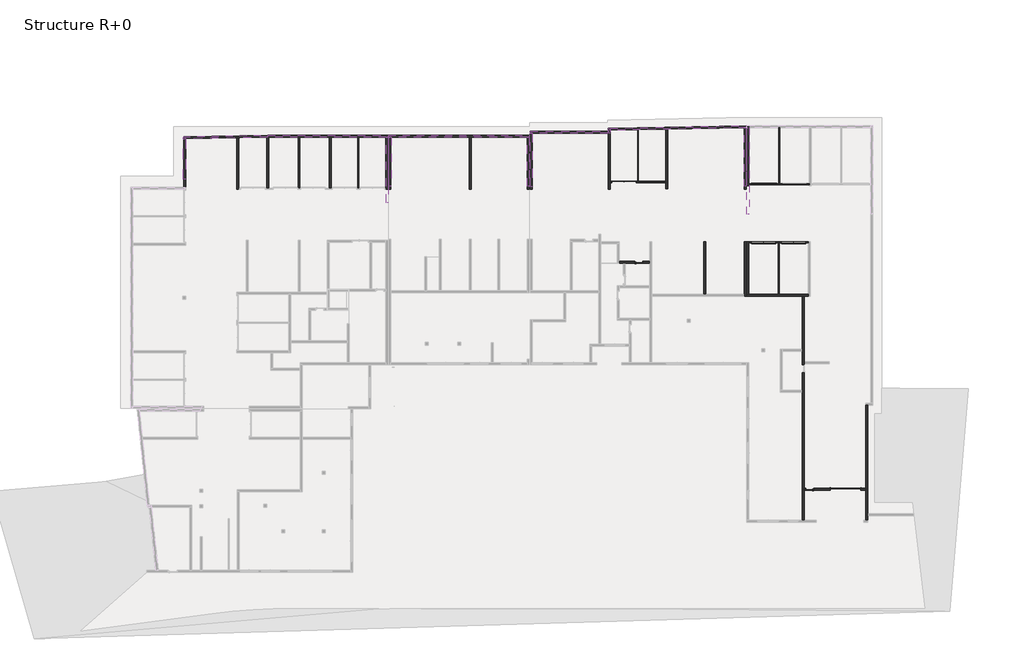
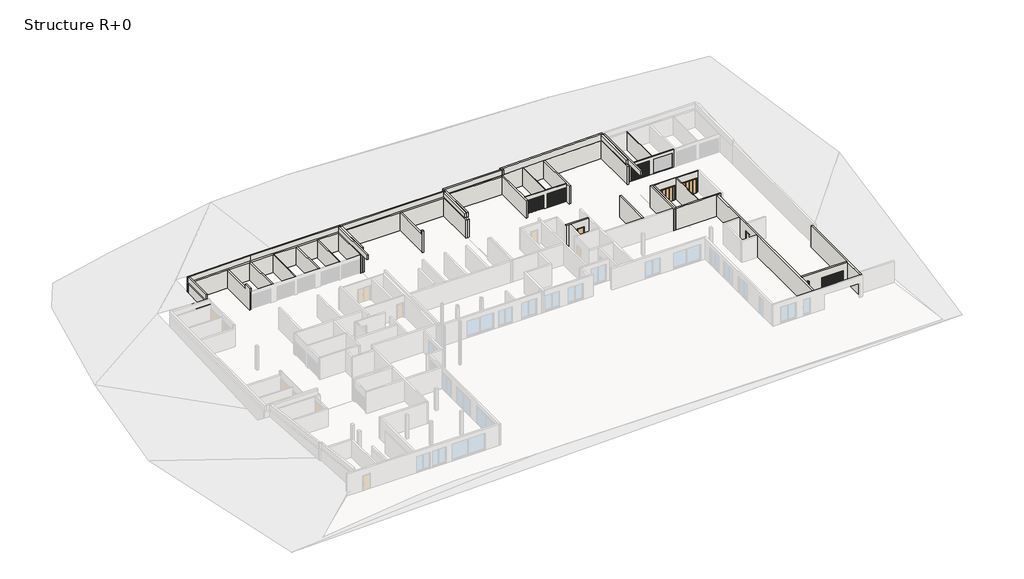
# One storey, part 4 of 5: 47 walls, 8 doors.
"""IFC4 building model written with IfcOpenShell, lengths in millimetres."""

from ifc_helpers import new_model, si_unit, frame, origin, origin_with_axes, place, context, project, spatial, polyline, outline, extrude, faceted_brep, transform, mapped, element, save
from components import door_2_4m_x_2m_ca442cef, door_3m_x_2m_7397f7c9, hb_simple_830_x_2040_mm_c83fbc24, int_simple_pp_0_83m_x_2_04m_462b1650

model = new_model("IFC4")

# Units and contexts
model_context = context("Model", 3, world=origin())
ifc_project = project(units=[si_unit("LENGTHUNIT", "METRE", prefix="MILLI")], contexts=[model_context])

# Site, building, storey
site = spatial("IfcSite", under=ifc_project)
building = spatial("IfcBuilding", under=site)
storey = spatial("IfcBuildingStorey", under=building, Name="Structure R+0", Elevation=0.0)

# Doors
placement = place(None, origin())
door_2_4m_x_2m_shape = door_2_4m_x_2m_ca442cef(model_context)
element("IfcDoor", 1, ObjectType="Garage basculante : 2.4m x 2m", at=placement, inside=storey, context=model_context, shape_type="MappedRepresentation", body=[
    mapped(door_2_4m_x_2m_shape, transform((47163.577574, 32179.2837054, -60.0), x_axis=(-1.0, 0.0, 0.0), y_axis=(0.0, -1.0, 0.0), z_axis=(0.0, 0.0, 1.0))),
])
element("IfcDoor", 2, ObjectType="Garage basculante : 2.4m x 2m", at=placement, inside=storey, context=model_context, shape_type="MappedRepresentation", body=[
    mapped(door_2_4m_x_2m_shape, transform((49956.9530308, 32179.2837054, 0.0), x_axis=(-1.0, 0.0, 0.0), y_axis=(0.0, -1.0, 0.0), z_axis=(0.0, 0.0, 1.0))),
])
element("IfcDoor", 3, ObjectType="Garage basculante : 2.4m x 2m", at=placement, inside=storey, context=model_context, shape_type="MappedRepresentation", body=[
    mapped(door_2_4m_x_2m_shape, transform((61027.3278041, 31982.2354102, 0.0), x_axis=(-1.0, 0.0, 0.0), y_axis=(0.0, -1.0, 0.0), z_axis=(0.0, 0.0, 1.0))),
])
element("IfcDoor", 4, ObjectType="Garage basculante : 2.4m x 2m", at=placement, inside=storey, context=model_context, shape_type="MappedRepresentation", body=[
    mapped(door_2_4m_x_2m_shape, transform((63996.3219312, 26916.1772446, 0.0), x_axis=(1.0, 0.0, 0.0), y_axis=(0.0, 1.0, 0.0), z_axis=(0.0, 0.0, 1.0))),
])
element("IfcDoor", 5, ObjectType="Garage basculante : 2.4m x 2m", at=placement, inside=storey, context=model_context, shape_type="MappedRepresentation", body=[
    mapped(door_2_4m_x_2m_shape, transform((61025.6076413, 26916.1772446, 0.0), x_axis=(1.0, 0.0, 0.0), y_axis=(0.0, 1.0, 0.0), z_axis=(0.0, 0.0, 1.0))),
])
door_3m_x_2m_shape = door_3m_x_2m_7397f7c9(model_context)
element("IfcDoor", 6, ObjectType="Garage basculante : 3m x 2m", at=placement, inside=storey, context=model_context, shape_type="MappedRepresentation", body=[
    mapped(door_3m_x_2m_shape, transform((69122.0236433, 1770.4780461, 0.0), x_axis=(-1.0, 0.0, 0.0), y_axis=(0.0, -1.0, 0.0), z_axis=(0.0, 0.0, 1.0))),
])
hb_simple_830_x_2040_mm_shape = hb_simple_830_x_2040_mm_c83fbc24(model_context)
element("IfcDoor", 7, ObjectType="HB-Simple : 830 x 2040 mm", at=placement, inside=storey, context=model_context, shape_type="MappedRepresentation", body=[
    mapped(hb_simple_830_x_2040_mm_shape, transform((65595.3933514, 2114.0303718, 0.0), x_axis=(-1.0, 0.0, 0.0), y_axis=(0.0, -1.0, 0.0), z_axis=(0.0, 0.0, 1.0))),
])
int_simple_pp_0_83m_x_2_04m_shape = int_simple_pp_0_83m_x_2_04m_462b1650(model_context)
element("IfcDoor", 8, ObjectType="Int. Simple : PP (0.83m x 2.04m)", at=placement, inside=storey, context=model_context, shape_type="MappedRepresentation", body=[
    mapped(int_simple_pp_0_83m_x_2_04m_shape, transform((48659.9149229, 24600.9913711, 0.0), x_axis=(1.0, 0.0, 0.0), y_axis=(0.0, 1.0, 0.0), z_axis=(0.0, 0.0, 1.0))),
])

# Walls
element("IfcWall", 9, ObjectType="Voile BA 20 + etancheite 1 + 0 enduit", at=placement, inside=storey, context=model_context, shape_type="Brep", body=[
    faceted_brep([(59082.2183923, 37936.6178833, 2710.0), (59082.2183923, 32111.2837659, 2710.0), (59082.2183923, 32111.2837659, 2720.0), (59082.2183923, 32111.2837659, 3320.0), (59082.2183923, 32111.2837659, 3330.0), (59082.2183923, 37936.6178833, 3330.0), (59292.2183923, 37941.0018036, 2710.0), (59292.2183923, 37941.0018036, 3330.0), (59292.2183923, 32111.2837659, 3330.0), (59292.2183923, 32111.2837659, 2710.0)], [[[0, 1, 2, 3, 4, 5]], [[6, 7, 8, 9]], [[1, 0, 6, 9]], [[4, 3, 2, 1, 9, 8]], [[5, 4, 8, 7]], [[0, 5, 7, 6]]]),
])
element("IfcWall", 10, ObjectType="Voile BA 20 + etancheite 1 + 0 enduit", at=placement, inside=storey, context=model_context, shape_type="Brep", body=[
    faceted_brep([(59352.998512, 37924.6162149, 2710.0), (59352.998512, 29381.5866004, 2710.0), (59352.998512, 29381.5866004, 3230.0), (59352.998512, 29381.5866004, 3330.0), (59352.998512, 37924.6162149, 3330.0), (59562.998512, 37924.6162149, 2710.0), (59562.998512, 37924.6162149, 3330.0), (59562.998512, 29381.5866004, 3330.0), (59562.998512, 29381.5866004, 3320.0), (59562.998512, 29381.5866004, 3030.0), (59562.998512, 29381.5866004, 2720.0), (59562.998512, 29381.5866004, 2710.0)], [[[0, 1, 2, 3, 4]], [[5, 6, 7, 8, 9, 10, 11]], [[1, 0, 5, 11]], [[4, 3, 7, 6]], [[0, 4, 6, 5]], [[3, 2, 1, 11, 10, 9, 8, 7]]]),
])
element("IfcWall", 11, ObjectType="Voile BA 20 + etancheite 1 + 2 enduit", at=placement, inside=storey, context=model_context, shape_type="Brep", body=[
    faceted_brep([(59288.2192671, 38150.9640726, 2510.0), (45808.577574, 37869.5656232, 2510.0), (45808.577574, 37869.5656232, 2710.0), (45808.577574, 37869.5656232, 3410.0), (59288.2192671, 38150.9640726, 3410.0), (59292.6022324, 37941.0098166, 2510.0), (59292.6022324, 37941.0098166, 3410.0), (45808.577574, 37659.5198692, 3410.0), (45808.577574, 37659.5198692, 2510.0)], [[[0, 1, 2, 3, 4]], [[5, 6, 7, 8]], [[1, 0, 5, 8]], [[4, 3, 7, 6]], [[0, 4, 6, 5]], [[3, 2, 1, 8, 7]]]),
])
element("IfcWall", 12, ObjectType="Voile BA 20 + etancheite 1 + 2 enduit", at=placement, inside=storey, context=model_context, shape_type="Brep", body=[
    faceted_brep([(45598.577574, 37390.5992191, 3410.0), (37868.7313075, 37390.5992191, 3410.0), (37868.7313075, 37390.5992191, 3330.0), (37868.7313075, 37390.5992191, 2710.0), (38078.7313075, 37390.5992191, 2710.0), (45598.577574, 37390.5992191, 2710.0), (45598.577574, 37600.5992191, 2510.0), (37868.7313075, 37600.5992191, 2510.0), (37868.7313075, 37600.5992191, 3410.0), (45598.577574, 37600.5992191, 3410.0), (45598.577574, 37580.5992191, 2510.0), (37868.7313075, 37580.5992191, 2510.0), (45598.577574, 37580.5992191, 2710.0), (37868.7313075, 37580.5992191, 2710.0)], [[[0, 1, 2, 3, 4, 5]], [[6, 7, 8, 9]], [[7, 6, 10, 11]], [[1, 0, 9, 8]], [[6, 9, 0, 5, 12, 10]], [[1, 8, 7, 11, 13, 3, 2]], [[13, 12, 5, 4, 3]], [[12, 13, 11, 10]]]),
])
element("IfcWall", 13, ObjectType="Voile BA 20 + etancheite 1 + 2 enduit", at=placement, inside=storey, context=model_context, shape_type="Brep", body=[
    faceted_brep([(45808.577574, 37370.5992191, 2710.0), (45808.577574, 37869.5656232, 2710.0), (45808.577574, 37869.5656232, 3410.0), (45808.577574, 37659.5198692, 3410.0), (45808.577574, 37370.5992191, 3410.0), (45598.577574, 37370.5992191, 2710.0), (45598.577574, 37370.5992191, 3410.0), (45598.577574, 37390.5992191, 3410.0), (45598.577574, 37600.5992191, 3410.0), (45598.577574, 37865.1817029, 3410.0), (45598.577574, 37865.1817029, 2710.0), (45598.577574, 37580.5992191, 2710.0), (45598.577574, 37390.5992191, 2710.0)], [[[0, 1, 2, 3, 4]], [[5, 6, 7, 8, 9, 10, 11, 12]], [[1, 0, 5, 12, 11, 10]], [[4, 3, 2, 9, 8, 7, 6]], [[0, 4, 6, 5]], [[2, 1, 10, 9]]]),
])
element("IfcWall", 14, ObjectType="Voile BA 20 + etancheite 1 + 0 enduit", at=placement, inside=storey, context=model_context, shape_type="Brep", body=[
    faceted_brep([(38078.7313075, 32087.4960094, 2710.0), (38078.7313075, 37390.5992191, 2710.0), (38078.7313075, 37390.5992191, 3330.0), (38078.7313075, 32087.4960094, 3330.0), (37868.7313075, 32087.4960094, 2710.0), (37868.7313075, 32087.4960094, 3230.0), (37868.7313075, 32087.4960094, 3330.0), (37868.7313075, 37390.5992191, 3330.0), (37868.7313075, 37390.5992191, 2710.0)], [[[0, 1, 2, 3]], [[4, 5, 6, 7, 8]], [[1, 0, 4, 8]], [[3, 2, 7, 6]], [[0, 3, 6, 5, 4]], [[2, 1, 8, 7]]]),
])
element("IfcWall", 15, ObjectType="Voile BA 20 + etancheite 1 + 0 enduit", at=placement, inside=storey, context=model_context, shape_type="Brep", body=[
    faceted_brep([(37808.3832806, 32107.4972516, 2710.0), (37808.3832806, 36992.4079561, 2710.0), (37808.3832806, 36992.4079561, 3330.0), (37808.3832806, 32107.4972516, 3330.0), (37598.3832806, 32107.4972516, 2710.0), (37598.3832806, 32107.4972516, 2720.0), (37598.3832806, 32107.4972516, 3030.0), (37598.3832806, 32107.4972516, 3330.0), (37598.3832806, 36992.4079561, 3330.0), (37598.3832806, 36992.4079561, 2710.0)], [[[0, 1, 2, 3]], [[4, 5, 6, 7, 8, 9]], [[1, 0, 4, 9]], [[3, 2, 8, 7]], [[0, 3, 7, 6, 5, 4]], [[2, 1, 9, 8]]]),
])
element("IfcWall", 16, ObjectType="Voile BA 20 + etancheite 1 + 2 enduit", at=placement, inside=storey, context=model_context, shape_type="Brep", body=[
    faceted_brep([(23891.9389593, 37202.4079561, 3410.0), (37799.4832806, 37202.4079561, 3410.0), (37799.4832806, 37202.4079561, 2710.0), (23891.9389593, 37202.4079561, 2710.0), (37799.4832806, 36992.4079561, 3410.0), (23891.9389593, 36992.4079561, 3410.0), (23891.9389593, 36992.4079561, 3330.0), (23891.9389593, 36992.4079561, 2710.0), (24101.9389593, 36992.4079561, 2710.0), (37598.3832806, 36992.4079561, 2710.0), (37799.4832806, 36992.4079561, 2710.0)], [[[0, 1, 2, 3]], [[4, 5, 6, 7, 8, 9, 10]], [[1, 0, 5, 4]], [[1, 4, 10, 2]], [[5, 0, 3, 7, 6]], [[3, 2, 10, 9, 8, 7]]]),
])
element("IfcWall", 17, ObjectType="Voile BA 20 + etancheite 1 + 0 enduit", at=placement, inside=storey, context=model_context, shape_type="SweptSolid", body=[
    extrude(outline(polyline([(24101.9389593, 36992.4079561), (24101.9389593, 32107.4974719), (23891.9389593, 32107.4974719), (23891.9389593, 36992.4079561), (24101.9389593, 36992.4079561)])), frame((0.0, 0.0, 2710.0), z_axis=(0.0, 0.0, 1.0), x_axis=(1.0, 0.0, 0.0)), (0.0, 0.0, 1.0), 620.0),
])
element("IfcWall", 18, ObjectType="Voile BA 20 + etancheite 1 + 0 enduit", at=placement, inside=storey, context=model_context, shape_type="Brep", body=[
    faceted_brep([(23819.3795366, 30510.6398567, 2710.0), (23819.3795366, 36992.4079561, 2710.0), (23819.3795366, 36992.4079561, 3330.0), (23819.3795366, 30510.6398567, 3330.0), (23609.3795366, 30510.6398567, 2710.0), (23609.3795366, 30510.6398567, 2720.0), (23609.3795366, 30510.6398567, 3320.0), (23609.3795366, 30510.6398567, 3330.0), (23609.3795366, 36992.4079561, 3330.0), (23609.3795366, 36992.4079561, 2710.0)], [[[0, 1, 2, 3]], [[4, 5, 6, 7, 8, 9]], [[1, 0, 4, 9]], [[3, 2, 8, 7]], [[0, 3, 7, 6, 5, 4]], [[2, 1, 9, 8]]]),
])
element("IfcWall", 19, ObjectType="Voile BA 20 + etancheite 1 + 2 enduit", at=placement, inside=storey, context=model_context, shape_type="Brep", body=[
    faceted_brep([(11903.2655763, 37202.4079561, 3410.0), (23819.4832806, 37202.4079561, 3410.0), (23819.4832806, 37202.4079561, 2510.0), (23803.2655761, 37202.4079561, 2510.0), (23803.2655761, 37202.4079561, 2710.0), (11903.2655763, 37202.4079561, 2710.0), (23819.4832806, 36992.4079561, 3410.0), (11905.3559168, 36992.4079561, 3410.0), (11905.3559168, 36992.4079561, 2710.0), (23609.3795366, 36992.4079561, 2710.0), (23803.2655761, 36992.4079561, 2710.0), (23803.2655761, 36992.4079561, 2510.0), (23819.4832806, 36992.4079561, 2510.0), (23819.4832806, 36992.4079561, 2710.0), (23819.4832806, 36992.4079561, 3330.0)], [[[0, 1, 2, 3, 4, 5]], [[6, 7, 8, 9, 10, 11, 12, 13, 14]], [[2, 12, 11, 3]], [[1, 0, 7, 6]], [[2, 1, 6, 14, 13, 12]], [[7, 0, 5, 8]], [[4, 10, 9, 8, 5]], [[10, 4, 3, 11]]]),
])
element("IfcWall", 20, ObjectType="Voile BA 20 + etancheite 1 + 2 enduit", at=placement, inside=storey, context=model_context, shape_type="Brep", body=[
    faceted_brep([(3536.9058449, 37035.8339205, 3410.0), (11903.2655763, 37202.4079561, 3410.0), (11903.2655763, 37202.4079561, 2710.0), (3556.9078335, 37036.2321596, 2710.0), (3556.9078335, 37036.2321596, 2510.0), (3536.9058449, 37035.8339205, 2510.0), (11905.3559168, 36992.4079561, 3410.0), (3746.9058449, 36829.9733972, 3410.0), (3536.9058449, 36825.7923019, 3410.0), (3536.9058449, 36825.7923019, 2710.0), (3536.9058449, 36825.7923019, 2510.0), (3556.9078335, 36826.190541, 2510.0), (3556.9078335, 36826.190541, 2710.0), (3746.9058449, 36829.9733972, 2710.0), (11905.3559168, 36992.4079561, 2710.0)], [[[0, 1, 2, 3, 4, 5]], [[6, 7, 8, 9, 10, 11, 12, 13, 14]], [[10, 5, 4, 11]], [[1, 0, 8, 7, 6]], [[0, 5, 10, 9, 8]], [[1, 6, 14, 2]], [[12, 3, 2, 14, 13]], [[3, 12, 11, 4]]]),
])
element("IfcWall", 21, ObjectType="Voile BA 20 + etancheite 1 + 2 enduit", at=placement, inside=storey, context=model_context, shape_type="Brep", body=[
    faceted_brep([(3746.9058449, 32810.6398567, 2710.0), (3746.9058449, 36829.9733972, 2710.0), (3746.9058449, 36829.9733972, 3410.0), (3746.9058449, 32810.6398567, 3410.0), (3746.9058449, 32810.6398567, 3320.0), (3746.9058449, 32810.6398567, 2720.0), (3536.9058449, 32810.6398567, 2710.0), (3536.9058449, 32810.6398567, 2720.0), (3536.9058449, 32810.6398567, 3320.0), (3536.9058449, 32810.6398567, 3410.0), (3536.9058449, 36825.7923019, 3410.0), (3536.9058449, 36825.7923019, 2710.0)], [[[0, 1, 2, 3, 4, 5]], [[6, 7, 8, 9, 10, 11]], [[1, 0, 6, 11]], [[3, 2, 10, 9]], [[0, 5, 4, 3, 9, 8, 7, 6]], [[2, 1, 11, 10]]]),
])
element("IfcWall", 22, ObjectType="Ext. Voile BA 20", at=placement, inside=storey, context=model_context, shape_type="Brep", body=[
    faceted_brep([(3556.9078335, 36836.1925228, 0.0), (3756.9078335, 36840.1745184, 0.0), (8817.5131269, 36940.9310569, 0.0), (9017.5131269, 36944.9130524, 0.0), (11803.2321127, 37000.3766553, 0.0), (11905.2563766, 37002.4079561, 0.0), (11905.2563766, 37002.4079561, 2510.0), (11803.2321127, 37000.3766553, 2510.0), (9017.5131269, 36944.9130524, 2510.0), (8817.5131269, 36940.9310569, 2510.0), (3756.9078335, 36840.1745184, 2510.0), (3556.9078335, 36836.1925228, 2510.0), (3556.9078335, 37036.2321596, 0.0), (3556.9078335, 37036.2321596, 2510.0), (11903.2655761, 37202.4079561, 2510.0), (11903.2655761, 37202.4079561, 0.0)], [[[0, 1, 2, 3, 4, 5, 6, 7, 8, 9, 10, 11]], [[12, 13, 14, 15]], [[5, 4, 3, 2, 1, 0, 12, 15]], [[11, 10, 9, 8, 7, 6, 14, 13]], [[6, 5, 15, 14]], [[0, 11, 13, 12]]]),
])
element("IfcWall", 23, ObjectType="Ext. Voile BA 20", at=placement, inside=storey, context=model_context, shape_type="Brep", body=[
    faceted_brep([(11905.2563766, 37002.4079561, 0.0), (12003.2321127, 37002.4079561, 0.0), (14936.19903, 37002.4079561, 0.0), (15036.19903, 37002.4079561, 0.0), (17999.2548774, 37002.4079561, 0.0), (18199.2548774, 37002.4079561, 0.0), (20819.3041456, 37002.4079561, 0.0), (20919.3041456, 37002.4079561, 0.0), (23603.2655761, 37002.4079561, 0.0), (23803.2655761, 37002.4079561, 0.0), (23803.2655761, 37002.4079561, 2510.0), (23603.2655761, 37002.4079561, 2510.0), (20919.3041456, 37002.4079561, 2510.0), (20819.3041456, 37002.4079561, 2510.0), (18199.2548774, 37002.4079561, 2510.0), (17999.2548774, 37002.4079561, 2510.0), (15036.19903, 37002.4079561, 2510.0), (14936.19903, 37002.4079561, 2510.0), (12003.2321127, 37002.4079561, 2510.0), (11905.2563766, 37002.4079561, 2510.0), (11903.2655761, 37202.4079561, 0.0), (11903.2655761, 37202.4079561, 2510.0), (23803.2655761, 37202.4079561, 2510.0), (23803.2655761, 37202.4079561, 0.0)], [[[0, 1, 2, 3, 4, 5, 6, 7, 8, 9, 10, 11, 12, 13, 14, 15, 16, 17, 18, 19]], [[20, 21, 22, 23]], [[9, 8, 7, 6, 5, 4, 3, 2, 1, 0, 20, 23]], [[19, 18, 17, 16, 15, 14, 13, 12, 11, 10, 22, 21]], [[0, 19, 21, 20]], [[10, 9, 23, 22]]]),
])
element("IfcWall", 24, ObjectType="Ext. Voile BA 20", at=placement, inside=storey, context=model_context, shape_type="Brep", body=[
    faceted_brep([(23603.2655761, 37002.4079561, 0.0), (23603.2655761, 31942.4079561, 0.0), (23603.2655761, 31842.4079561, 0.0), (23603.2655761, 31842.4079561, 2510.0), (23603.2655761, 31942.4079561, 2510.0), (23603.2655761, 37002.4079561, 2510.0), (23803.2655761, 37002.4079561, 0.0), (23803.2655761, 37002.4079561, 2510.0), (23803.2655761, 31842.4079561, 2510.0), (23803.2655761, 31842.4079561, 0.0)], [[[0, 1, 2, 3, 4, 5]], [[6, 7, 8, 9]], [[0, 5, 7, 6]], [[3, 2, 9, 8]], [[2, 1, 0, 6, 9]], [[5, 4, 3, 8, 7]]]),
])
element("IfcWall", 25, ObjectType="Ext. Voile BA 20", at=placement, inside=storey, context=model_context, shape_type="Brep", body=[
    faceted_brep([(24079.4832806, 37002.4079561, 0.0), (31828.7587922, 37002.4079561, 0.0), (32028.7587922, 37002.4079561, 0.0), (37808.398272, 37002.4079561, 0.0), (37808.398272, 37002.4079561, 2510.0), (32028.7587922, 37002.4079561, 2510.0), (31828.7587922, 37002.4079561, 2510.0), (24079.4832806, 37002.4079561, 2510.0), (24079.4832806, 37202.4079561, 0.0), (24079.4832806, 37202.4079561, 2510.0), (37808.398272, 37202.4079561, 2510.0), (37808.398272, 37202.4079561, 0.0)], [[[0, 1, 2, 3, 4, 5, 6, 7]], [[8, 9, 10, 11]], [[0, 7, 9, 8]], [[4, 3, 11, 10]], [[3, 2, 1, 0, 8, 11]], [[7, 6, 5, 4, 10, 9]]]),
])
element("IfcWall", 26, ObjectType="Ext. Voile BA 20", at=placement, inside=storey, context=model_context, shape_type="SweptSolid", body=[
    extrude(outline(polyline([(45618.577574, 37390.5992191), (38068.7313075, 37390.5992191), (38068.7313075, 37590.5992191), (45618.577574, 37590.5992191), (45618.577574, 37390.5992191)])), origin_with_axes(), (0.0, 0.0, 1.0), 2510.0),
])
element("IfcWall", 27, ObjectType="Ext. Voile BA 20", at=placement, inside=storey, context=model_context, shape_type="Brep", body=[
    faceted_brep([(45818.577574, 37659.9648356, 0.0), (48540.8278786, 37716.7940179, 0.0), (48610.8278786, 37718.2553247, 0.0), (51333.0781831, 37775.0845069, 0.0), (51533.0781831, 37779.2596691, 0.0), (59092.2183923, 37937.0628498, 0.0), (59292.2183923, 37941.2380119, 0.0), (59292.2183923, 37941.2380119, 2510.0), (59092.2183923, 37937.0628498, 2510.0), (51533.0781831, 37779.2596691, 2510.0), (51333.0781831, 37775.0845069, 2510.0), (48610.8278786, 37718.2553247, 2510.0), (48540.8278786, 37716.7940179, 2510.0), (45818.577574, 37659.9648356, 2510.0), (45818.577574, 37860.0084108, 0.0), (45818.577574, 37860.0084108, 2510.0), (59292.2183923, 38141.2815871, 2510.0), (59292.2183923, 38141.2815871, 0.0)], [[[0, 1, 2, 3, 4, 5, 6, 7, 8, 9, 10, 11, 12, 13]], [[14, 15, 16, 17]], [[6, 5, 4, 3, 2, 1, 0, 14, 17]], [[13, 12, 11, 10, 9, 8, 7, 16, 15]], [[0, 13, 15, 14]], [[7, 6, 17, 16]]]),
])
element("IfcWall", 28, ObjectType="Ext. Voile BA 20", at=placement, inside=storey, context=model_context, shape_type="Brep", body=[
    faceted_brep([(71127.0236897, 10414.6162149, 0.0), (71127.0236897, 2214.0303718, 0.0), (71127.0236897, 2014.0303718, 0.0), (71127.0236897, -947.3118451, 0.0), (71127.0236897, -947.3118451, 3030.0), (71127.0236897, 2014.0303718, 3030.0), (71127.0236897, 2214.0303718, 3030.0), (71127.0236897, 10414.6162149, 3030.0), (71327.0236897, 10414.6162149, 0.0), (71327.0236897, 10414.6162149, 3030.0), (71327.0236897, -308.991972, 3030.0), (71327.0236897, -508.991972, 3030.0), (71327.0236897, -947.3118451, 3030.0), (71327.0236897, -947.3118451, 0.0), (71327.0236897, -508.991972, 0.0), (71327.0236897, -308.991972, 0.0)], [[[0, 1, 2, 3, 4, 5, 6, 7]], [[8, 9, 10, 11, 12, 13, 14, 15]], [[3, 2, 1, 0, 8, 15, 14, 13]], [[7, 6, 5, 4, 12, 11, 10, 9]], [[0, 7, 9, 8]], [[4, 3, 13, 12]]]),
])
element("IfcWall", 29, ObjectType="Ext. Voile BA 20", at=placement, inside=storey, context=model_context, shape_type="Brep", body=[
    faceted_brep([(71127.0236897, 2014.0303718, 3030.0), (65012.3933514, 2014.0303718, 3030.0), (65012.3933514, 2014.0303718, 0.0), (65178.8933514, 2014.0303718, 0.0), (65178.8933514, 2014.0303718, 2041.5), (66011.8933514, 2014.0303718, 2041.5), (66011.8933514, 2014.0303718, 0.0), (67622.0236433, 2014.0303718, 0.0), (67622.0236433, 2014.0303718, 2015.0), (70652.0236433, 2014.0303718, 2015.0), (70652.0236433, 2014.0303718, 0.0), (71127.0236897, 2014.0303718, 0.0), (65012.3933514, 2214.0303718, 3030.0), (71127.0236897, 2214.0303718, 3030.0), (71127.0236897, 2214.0303718, 0.0), (70652.0236433, 2214.0303718, 0.0), (70652.0236433, 2214.0303718, 2015.0), (67622.0236433, 2214.0303718, 2015.0), (67622.0236433, 2214.0303718, 0.0), (65992.3933514, 2214.0303718, 0.0), (65992.3933514, 2214.0303718, 2022.0), (65198.3933514, 2214.0303718, 2022.0), (65198.3933514, 2214.0303718, 0.0), (65012.3933514, 2214.0303718, 0.0), (65198.3933514, 2194.0303718, 0.0), (65135.8933514, 2194.0303718, 0.0), (65149.8933514, 2180.0303718, 0.0), (65161.8933514, 2192.0303718, 0.0), (65178.8933514, 2192.0303718, 0.0), (65178.8933514, 2157.0303718, 0.0), (65196.8933514, 2157.0303718, 0.0), (65196.8933514, 2036.0303718, 0.0), (65178.8933514, 2036.0303718, 0.0), (66011.8933514, 2036.0303718, 0.0), (65993.8933514, 2036.0303718, 0.0), (65993.8933514, 2157.0303718, 0.0), (66011.8933514, 2157.0303718, 0.0), (66011.8933514, 2192.0303718, 0.0), (66028.8933514, 2192.0303718, 0.0), (66040.8933514, 2180.0303718, 0.0), (66054.8933514, 2194.0303718, 0.0), (65992.3933514, 2194.0303718, 0.0), (65992.3933514, 2194.0303718, 2022.0), (65198.3933514, 2194.0303718, 2022.0), (65135.8933514, 2194.0303718, 2084.5), (65149.8933514, 2180.0303718, 2070.5), (65161.8933514, 2192.0303718, 2058.5), (66028.8933514, 2192.0303718, 2058.5), (66011.8933514, 2192.0303718, 2041.5), (65178.8933514, 2192.0303718, 2041.5), (65178.8933514, 2157.0303718, 2041.5), (66011.8933514, 2157.0303718, 2041.5), (65993.8933514, 2157.0303718, 2023.5), (65196.8933514, 2157.0303718, 2023.5), (65196.8933514, 2036.0303718, 2023.5), (65993.8933514, 2036.0303718, 2023.5), (66011.8933514, 2036.0303718, 2041.5), (65178.8933514, 2036.0303718, 2041.5), (66054.8933514, 2194.0303718, 2084.5), (66040.8933514, 2180.0303718, 2070.5)], [[[0, 1, 2, 3, 4, 5, 6, 7, 8, 9, 10, 11]], [[12, 13, 14, 15, 16, 17, 18, 19, 20, 21, 22, 23]], [[2, 23, 22, 24, 25, 26, 27, 28, 29, 30, 31, 32, 3]], [[14, 11, 10, 15]], [[18, 7, 6, 33, 34, 35, 36, 37, 38, 39, 40, 41, 19]], [[1, 0, 13, 12]], [[0, 11, 14, 13]], [[2, 1, 12, 23]], [[41, 42, 20, 19]], [[42, 43, 21, 20]], [[43, 24, 22, 21]], [[25, 44, 45, 26]], [[26, 45, 46, 27]], [[27, 46, 47, 38, 37, 48, 49, 28]], [[28, 49, 50, 29]], [[29, 50, 51, 36, 35, 52, 53, 30]], [[30, 53, 54, 31]], [[31, 54, 55, 34, 33, 56, 57, 32]], [[32, 57, 4, 3]], [[42, 41, 40, 58, 44, 25, 24, 43]], [[45, 44, 58, 59]], [[46, 45, 59, 47]], [[49, 48, 51, 50]], [[53, 52, 55, 54]], [[57, 56, 5, 4]], [[58, 40, 39, 59]], [[38, 47, 59, 39]], [[48, 37, 36, 51]], [[52, 35, 34, 55]], [[56, 33, 6, 5]], [[8, 17, 16, 9]], [[9, 16, 15, 10]], [[17, 8, 7, 18]]]),
])
element("IfcWall", 30, ObjectType="Int. Brique 70 mm", at=placement, inside=storey, context=model_context, shape_type="SweptSolid", body=[
    extrude(outline(polyline([(62531.6570963, 32375.787736), (62531.6570963, 37944.6162149), (62601.6570963, 37944.6162149), (62601.6570963, 32375.787736), (62531.6570963, 32375.787736)])), origin_with_axes(), (0.0, 0.0, 1.0), 2570.0),
])
element("IfcWall", 31, ObjectType="Int. Brique 70 mm", at=placement, inside=storey, context=model_context, shape_type="SweptSolid", body=[
    extrude(outline(polyline([(48610.8278786, 37718.2553247), (48610.8278786, 32572.8360311), (48540.8278786, 32572.8360311), (48540.8278786, 37716.7940179), (48610.8278786, 37718.2553247)])), origin_with_axes(), (0.0, 0.0, 1.0), 2510.0),
])
element("IfcWall", 32, ObjectType="Int. Brique 70 mm", at=placement, inside=storey, context=model_context, shape_type="Brep", body=[
    faceted_brep([(62468.8219312, 26522.6249188, 0.0), (62468.8219312, 21416.6652274, 0.0), (62468.8219312, 21416.6652274, 3030.0), (62468.8219312, 23762.4942338, 3030.0), (62468.8219312, 24062.4942338, 3030.0), (62468.8219312, 26522.6249188, 3030.0), (62538.8219312, 26522.6249188, 0.0), (62538.8219312, 26522.6249188, 3030.0), (62538.8219312, 24062.4942338, 3030.0), (62538.8219312, 23762.4942338, 3030.0), (62538.8219312, 21416.6652274, 3030.0), (62538.8219312, 21416.6652274, 0.0)], [[[0, 1, 2, 3, 4, 5]], [[6, 7, 8, 9, 10, 11]], [[1, 0, 6, 11]], [[5, 4, 3, 2, 10, 9, 8, 7]], [[2, 1, 11, 10]], [[0, 5, 7, 6]]]),
])
element("IfcWall", 33, ObjectType="Int. Parpaing 100 mm", at=placement, inside=storey, context=model_context, shape_type="SweptSolid", body=[
    extrude(outline(polyline([(20819.3041456, 31942.4079561), (20819.3041456, 37002.4079561), (20919.3041456, 37002.4079561), (20919.3041456, 31942.4079561), (20819.3041456, 31942.4079561)])), origin_with_axes(), (0.0, 0.0, 1.0), 2510.0),
])
element("IfcWall", 34, ObjectType="Int. Parpaing 100 mm", at=placement, inside=storey, context=model_context, shape_type="SweptSolid", body=[
    extrude(outline(polyline([(14936.19903, 31942.4079561), (14936.19903, 37002.4079561), (15036.19903, 37002.4079561), (15036.19903, 31942.4079561), (14936.19903, 31942.4079561)])), origin_with_axes(), (0.0, 0.0, 1.0), 2510.0),
])
element("IfcWall", 35, ObjectType="Int. Parpaing 100 mm", at=placement, inside=storey, context=model_context, shape_type="Brep", body=[
    faceted_brep([(51333.0781831, 32472.8360311, 2510.0), (45818.577574, 32472.8360311, 2510.0), (45818.577574, 32472.8360311, -60.0), (45963.577574, 32472.8360311, -60.0), (45963.577574, 32472.8360311, 1955.0), (48393.577574, 32472.8360311, 1955.0), (48393.577574, 32472.8360311, -60.0), (51333.0781831, 32472.8360311, -60.0), (48756.9530308, 32472.8360311, 2015.0), (51186.9530308, 32472.8360311, 2015.0), (51186.9530308, 32472.8360311, 0.0), (48756.9530308, 32472.8360311, 0.0), (45818.577574, 32572.8360311, 2510.0), (48540.8278786, 32572.8360311, 2510.0), (48610.8278786, 32572.8360311, 2510.0), (51333.0781831, 32572.8360311, 2510.0), (51333.0781831, 32572.8360311, -60.0), (48393.577574, 32572.8360311, -60.0), (48393.577574, 32572.8360311, 1955.0), (45963.577574, 32572.8360311, 1955.0), (45963.577574, 32572.8360311, -60.0), (45818.577574, 32572.8360311, -60.0), (51186.9530308, 32572.8360311, 2015.0), (48756.9530308, 32572.8360311, 2015.0), (48756.9530308, 32572.8360311, 0.0), (51186.9530308, 32572.8360311, 0.0)], [[[0, 1, 2, 3, 4, 5, 6, 7], [8, 9, 10, 11]], [[12, 13, 14, 15, 16, 17, 18, 19, 20, 21], [22, 23, 24, 25]], [[16, 7, 6, 17]], [[2, 21, 20, 3]], [[1, 0, 15, 14, 13, 12]], [[0, 7, 16, 15]], [[2, 1, 12, 21]], [[4, 19, 18, 5]], [[5, 18, 17, 6]], [[19, 4, 3, 20]], [[8, 23, 22, 9]], [[10, 25, 24, 11]], [[9, 22, 25, 10]], [[23, 8, 11, 24]]]),
])
element("IfcWall", 36, ObjectType="Int. Parpaing 100 mm", at=placement, inside=storey, context=model_context, shape_type="SweptSolid", body=[
    extrude(outline(polyline([(-60.0, 59552.998512), (-60.0, 65633.9384076), (0.0, 65633.9384076), (0.0, 65533.9384076), (2510.0, 65533.9384076), (2510.0, 59552.998512), (-60.0, 59552.998512)]), holes=[polyline([(2015.0, 59827.3278041), (2015.0, 62257.3278041), (0.0, 62257.3278041), (0.0, 59827.3278041), (2015.0, 59827.3278041)]), polyline([(2015.0, 62852.7977519), (2015.0, 65282.7977519), (0.0, 65282.7977519), (0.0, 62852.7977519), (2015.0, 62852.7977519)])]), frame((0.0, 32275.787736, 0.0), z_axis=(0.0, 1.0, 0.0), x_axis=(0.0, 0.0, 1.0)), (0.0, 0.0, 1.0), 100.0),
])
element("IfcWall", 37, ObjectType="Int. Parpaing 100 mm", at=placement, inside=storey, context=model_context, shape_type="Brep", body=[
    faceted_brep([(59552.3933514, 26522.6249188, -60.0), (65413.8694348, 26522.6249188, -60.0), (65413.8694348, 26522.6249188, 3030.0), (62538.8219312, 26522.6249188, 3030.0), (62468.8219312, 26522.6249188, 3030.0), (59552.3933514, 26522.6249188, 3030.0), (62766.3219312, 26522.6249188, 2015.0), (65196.3219312, 26522.6249188, 2015.0), (65196.3219312, 26522.6249188, 0.0), (62766.3219312, 26522.6249188, 0.0), (59795.6076413, 26522.6249188, 2015.0), (62225.6076413, 26522.6249188, 2015.0), (62225.6076413, 26522.6249188, 0.0), (59795.6076413, 26522.6249188, 0.0), (65413.8694348, 26622.6249188, -60.0), (59552.3933514, 26622.6249188, -60.0), (59552.3933514, 26622.6249188, 0.0), (59552.3933514, 26622.6249188, 3030.0), (65413.8694348, 26622.6249188, 3030.0), (65413.8694348, 26622.6249188, 0.0), (65196.3219312, 26622.6249188, 2015.0), (62766.3219312, 26622.6249188, 2015.0), (62766.3219312, 26622.6249188, 0.0), (65196.3219312, 26622.6249188, 0.0), (62225.6076413, 26622.6249188, 2015.0), (59795.6076413, 26622.6249188, 2015.0), (59795.6076413, 26622.6249188, 0.0), (62225.6076413, 26622.6249188, 0.0)], [[[0, 1, 2, 3, 4, 5], [6, 7, 8, 9], [10, 11, 12, 13]], [[14, 15, 16, 17, 18, 19], [20, 21, 22, 23], [24, 25, 26, 27]], [[1, 0, 15, 14]], [[5, 4, 3, 2, 18, 17]], [[0, 5, 17, 16, 15]], [[2, 1, 14, 19, 18]], [[20, 7, 6, 21]], [[22, 9, 8, 23]], [[21, 6, 9, 22]], [[7, 20, 23, 8]], [[24, 11, 10, 25]], [[26, 13, 12, 27]], [[25, 10, 13, 26]], [[11, 24, 27, 12]]]),
])
element("IfcWall", 38, ObjectType="Voile BA 20", at=placement, inside=storey, context=model_context, shape_type="SweptSolid", body=[
    extrude(outline(polyline([(3756.9078335, 36840.1745184), (3756.9078335, 32028.092309), (3556.9078335, 32028.092309), (3556.9078335, 36836.1925228), (3756.9078335, 36840.1745184)])), origin_with_axes(), (0.0, 0.0, 1.0), 2510.0),
])
element("IfcWall", 39, ObjectType="Voile BA 20", at=placement, inside=storey, context=model_context, shape_type="Brep", body=[
    faceted_brep([(8817.5131269, 36940.9310569, 0.0), (8817.5131269, 31842.4079561, 0.0), (8817.5131269, 31842.4079561, 3030.0), (8817.5131269, 32810.6398567, 3030.0), (8817.5131269, 32810.6398567, 2510.0), (8817.5131269, 36940.9310569, 2510.0), (9017.5131269, 36944.9130524, 0.0), (9017.5131269, 36944.9130524, 2510.0), (9017.5131269, 32810.6398567, 2510.0), (9017.5131269, 32810.6398567, 3030.0), (9017.5131269, 31842.4079561, 3030.0), (9017.5131269, 31842.4079561, 2510.0), (9017.5131269, 31842.4079561, 0.0), (9017.5131269, 31942.4079561, 0.0)], [[[0, 1, 2, 3, 4, 5]], [[6, 7, 8, 9, 10, 11, 12, 13]], [[1, 0, 6, 13, 12]], [[2, 1, 12, 11, 10]], [[3, 2, 10, 9]], [[3, 9, 8, 4]], [[0, 5, 7, 6]], [[7, 5, 4, 8]]]),
])
element("IfcWall", 40, ObjectType="Voile BA 20", at=placement, inside=storey, context=model_context, shape_type="SweptSolid", body=[
    extrude(outline(polyline([(11803.2321127, 31942.4079561), (11803.2321127, 37000.3766553), (11905.2563766, 37002.4079561), (12003.2321127, 37002.4079561), (12003.2321127, 31942.4079561), (11803.2321127, 31942.4079561)])), origin_with_axes(), (0.0, 0.0, 1.0), 2510.0),
])
element("IfcWall", 41, ObjectType="Voile BA 20", at=placement, inside=storey, context=model_context, shape_type="SweptSolid", body=[
    extrude(outline(polyline([(17999.2548774, 31942.4079561), (17999.2548774, 37002.4079561), (18199.2548774, 37002.4079561), (18199.2548774, 31942.4079561), (17999.2548774, 31942.4079561)])), origin_with_axes(), (0.0, 0.0, 1.0), 2510.0),
])
element("IfcWall", 42, ObjectType="Voile BA 20", at=placement, inside=storey, context=model_context, shape_type="Brep", body=[
    faceted_brep([(24079.4832806, 31844.9130524, 0.0), (24079.4832806, 37002.4079561, 0.0), (24079.4832806, 37202.4079561, 0.0), (24079.4832806, 37202.4079561, 2510.0), (24079.4832806, 37002.4079561, 2510.0), (24079.4832806, 31844.9130524, 2510.0), (23879.4832806, 31844.9130524, 0.0), (23879.4832806, 31844.9130524, 2510.0), (23879.4832806, 37202.4079561, 2510.0), (23879.4832806, 37202.4079561, 0.0)], [[[0, 1, 2, 3, 4, 5]], [[6, 7, 8, 9]], [[3, 2, 9, 8]], [[2, 1, 0, 6, 9]], [[5, 4, 3, 8, 7]], [[0, 5, 7, 6]]]),
])
element("IfcWall", 43, ObjectType="Voile BA 20", at=placement, inside=storey, context=model_context, shape_type="SweptSolid", body=[
    extrude(outline(polyline([(37608.398272, 31857.8938935), (37608.398272, 37002.4079561), (37808.398272, 37002.4079561), (37808.398272, 31857.8938935), (37608.398272, 31857.8938935)])), origin_with_axes(), (0.0, 0.0, 1.0), 2510.0),
])
element("IfcWall", 44, ObjectType="Voile BA 20", at=placement, inside=storey, context=model_context, shape_type="Brep", body=[
    faceted_brep([(31828.7587922, 37002.4079561, 0.0), (31828.7587922, 31857.8938935, 0.0), (31828.7587922, 31857.8938935, 3030.0), (31828.7587922, 32107.4960317, 3030.0), (31828.7587922, 32107.4974719, 2510.0), (31828.7587922, 37002.4079561, 2510.0), (32028.7587922, 37002.4079561, 0.0), (32028.7587922, 37002.4079561, 2510.0), (32028.7587922, 32107.4974719, 2510.0), (32028.7587922, 32107.4974719, 3030.0), (32028.7587922, 31857.8938935, 3030.0), (32028.7587922, 31857.8938935, 0.0)], [[[0, 1, 2, 3, 4, 5]], [[6, 7, 8, 9, 10, 11]], [[1, 0, 6, 11]], [[2, 1, 11, 10]], [[3, 2, 10, 9]], [[3, 9, 8, 4]], [[0, 5, 7, 6]], [[7, 5, 4, 8]]]),
])
element("IfcWall", 45, ObjectType="Voile BA 20", at=placement, inside=storey, context=model_context, shape_type="Brep", body=[
    faceted_brep([(38068.7313075, 31857.8938935, 0.0), (38068.7313075, 37390.5992191, 0.0), (38068.7313075, 37590.5992191, 0.0), (38068.7313075, 37590.5992191, 2510.0), (38068.7313075, 37390.5992191, 2510.0), (38068.7313075, 31857.8938935, 2510.0), (37868.7313075, 31857.8938935, 0.0), (37868.7313075, 31857.8938935, 2510.0), (37868.7313075, 37590.5992191, 2510.0), (37868.7313075, 37590.5992191, 0.0)], [[[0, 1, 2, 3, 4, 5]], [[6, 7, 8, 9]], [[2, 1, 0, 6, 9]], [[5, 4, 3, 8, 7]], [[0, 5, 7, 6]], [[3, 2, 9, 8]]]),
])
element("IfcWall", 46, ObjectType="Voile BA 20", at=placement, inside=storey, context=model_context, shape_type="Brep", body=[
    faceted_brep([(45818.577574, 31857.8990422, 0.0), (45818.577574, 37659.9648356, 0.0), (45818.577574, 37860.0084108, 0.0), (45818.577574, 37860.0084108, 2510.0), (45818.577574, 37659.9648356, 2510.0), (45818.577574, 32572.8360311, 2510.0), (45818.577574, 32472.8360311, 2510.0), (45818.577574, 31857.8990422, 2510.0), (45618.577574, 31857.8990422, 0.0), (45618.577574, 31857.8990422, 2510.0), (45618.577574, 37390.5992191, 2510.0), (45618.577574, 37590.5992191, 2510.0), (45618.577574, 37855.8332487, 2510.0), (45618.577574, 37855.8332487, 0.0), (45618.577574, 37590.5992191, 0.0), (45618.577574, 37390.5992191, 0.0)], [[[0, 1, 2, 3, 4, 5, 6, 7]], [[8, 9, 10, 11, 12, 13, 14, 15]], [[2, 1, 0, 8, 15, 14, 13]], [[7, 6, 5, 4, 3, 12, 11, 10, 9]], [[0, 7, 9, 8]], [[3, 2, 13, 12]]]),
])
element("IfcWall", 47, ObjectType="Voile BA 20", at=placement, inside=storey, context=model_context, shape_type="SweptSolid", body=[
    extrude(outline(polyline([(59092.2183923, 31859.1437413), (59092.2183923, 37937.0628498), (59292.2183923, 37941.2380119), (59292.2183923, 31859.1437413), (59092.2183923, 31859.1437413)])), origin_with_axes(), (0.0, 0.0, 1.0), 2510.0),
])
element("IfcWall", 48, ObjectType="Voile BA 20", at=placement, inside=storey, context=model_context, shape_type="Brep", body=[
    faceted_brep([(59552.998512, 32199.1437413, 0.0), (59552.998512, 37944.6162149, 0.0), (59552.998512, 38144.6162149, 0.0), (59552.998512, 38144.6162149, 2510.0), (59552.998512, 37944.6162149, 2510.0), (59552.998512, 32375.787736, 2510.0), (59552.998512, 32275.787736, 2510.0), (59552.998512, 32199.1437413, 2510.0), (59352.998512, 32199.1437413, 0.0), (59352.998512, 32199.1437413, 2510.0), (59352.998512, 38144.6162149, 2510.0), (59352.998512, 38144.6162149, 0.0)], [[[0, 1, 2, 3, 4, 5, 6, 7]], [[8, 9, 10, 11]], [[2, 1, 0, 8, 11]], [[7, 6, 5, 4, 3, 10, 9]], [[0, 7, 9, 8]], [[3, 2, 11, 10]]]),
])
element("IfcWall", 49, ObjectType="Voile BA 20", at=placement, inside=storey, context=model_context, shape_type="Brep", body=[
    faceted_brep([(65012.3933514, 21216.6652274, 3030.0), (65012.3933514, 14761.6841597, 3030.0), (65012.3933514, 14561.6841597, 3030.0), (65012.3933514, 2214.0303718, 3030.0), (65012.3933514, 2014.0303718, 3030.0), (65012.3933514, -947.3118451, 3030.0), (65012.3933514, -947.3118451, 0.0), (65012.3933514, 2014.0303718, 0.0), (65012.3933514, 2214.0303718, 0.0), (65012.3933514, 13645.1841597, 0.0), (65012.3933514, 13645.1841597, 2041.5), (65012.3933514, 14478.1841597, 2041.5), (65012.3933514, 14478.1841597, 0.0), (65012.3933514, 14561.6841597, 0.0), (65012.3933514, 14761.6841597, 0.0), (65012.3933514, 21216.6652274, 0.0), (64812.3933514, -947.3118451, 3030.0), (64812.3933514, 11749.2539559, 3030.0), (64812.3933514, 11949.2539559, 3030.0), (64812.3933514, 15809.2539559, 3030.0), (64812.3933514, 16009.2539559, 3030.0), (64812.3933514, 20814.6274913, 3030.0), (64812.3933514, 21114.6274913, 3030.0), (64812.3933514, 21216.6652274, 3030.0), (64812.3933514, 21216.6652274, 0.0), (64812.3933514, 16009.2539559, 0.0), (64812.3933514, 15809.2539559, 0.0), (64812.3933514, 14458.6841597, 0.0), (64812.3933514, 14458.6841597, 2022.0), (64812.3933514, 13664.6841597, 2022.0), (64812.3933514, 13664.6841597, 0.0), (64812.3933514, 11949.2539559, 0.0), (64812.3933514, 11749.2539559, 0.0), (64812.3933514, -947.3118451, 0.0), (64832.3933514, 13664.6841597, 0.0), (64832.3933514, 13602.1841597, 0.0), (64846.3933514, 13616.1841597, 0.0), (64834.3933514, 13628.1841597, 0.0), (64834.3933514, 13645.1841597, 0.0), (64869.3933514, 13645.1841597, 0.0), (64869.3933514, 13663.1841597, 0.0), (64990.3933514, 13663.1841597, 0.0), (64990.3933514, 13645.1841597, 0.0), (64990.3933514, 14478.1841597, 0.0), (64990.3933514, 14460.1841597, 0.0), (64869.3933514, 14460.1841597, 0.0), (64869.3933514, 14478.1841597, 0.0), (64834.3933514, 14478.1841597, 0.0), (64834.3933514, 14495.1841597, 0.0), (64846.3933514, 14507.1841597, 0.0), (64832.3933514, 14521.1841597, 0.0), (64832.3933514, 14458.6841597, 0.0), (64832.3933514, 13664.6841597, 2022.0), (64832.3933514, 14458.6841597, 2022.0), (64846.3933514, 14507.1841597, 2070.5), (64832.3933514, 14521.1841597, 2084.5), (64834.3933514, 14495.1841597, 2058.5), (64834.3933514, 14478.1841597, 2041.5), (64834.3933514, 13645.1841597, 2041.5), (64834.3933514, 13628.1841597, 2058.5), (64869.3933514, 14478.1841597, 2041.5), (64869.3933514, 14460.1841597, 2023.5), (64869.3933514, 13663.1841597, 2023.5), (64869.3933514, 13645.1841597, 2041.5), (64990.3933514, 14460.1841597, 2023.5), (64990.3933514, 14478.1841597, 2041.5), (64990.3933514, 13645.1841597, 2041.5), (64990.3933514, 13663.1841597, 2023.5), (64832.3933514, 13602.1841597, 2084.5), (64846.3933514, 13616.1841597, 2070.5)], [[[0, 1, 2, 3, 4, 5, 6, 7, 8, 9, 10, 11, 12, 13, 14, 15]], [[16, 17, 18, 19, 20, 21, 22, 23, 24, 25, 26, 27, 28, 29, 30, 31, 32, 33]], [[6, 33, 32, 31, 30, 34, 35, 36, 37, 38, 39, 40, 41, 42, 9, 8, 7]], [[24, 15, 14, 13, 12, 43, 44, 45, 46, 47, 48, 49, 50, 51, 27, 26, 25]], [[5, 4, 3, 2, 1, 0, 23, 22, 21, 20, 19, 18, 17, 16]], [[6, 5, 16, 33]], [[0, 15, 24, 23]], [[52, 34, 30, 29]], [[53, 52, 29, 28]], [[51, 53, 28, 27]], [[49, 54, 55, 50]], [[54, 49, 48, 56]], [[56, 48, 47, 57, 58, 38, 37, 59]], [[57, 47, 46, 60]], [[60, 46, 45, 61, 62, 40, 39, 63]], [[61, 45, 44, 64]], [[64, 44, 43, 65, 66, 42, 41, 67]], [[65, 43, 12, 11]], [[34, 52, 53, 51, 50, 55, 68, 35]], [[55, 54, 69, 68]], [[54, 56, 59, 69]], [[58, 57, 60, 63]], [[62, 61, 64, 67]], [[66, 65, 11, 10]], [[35, 68, 69, 36]], [[59, 37, 36, 69]], [[38, 58, 63, 39]], [[40, 62, 67, 41]], [[42, 66, 10, 9]]]),
])
element("IfcWall", 50, ObjectType="Voile BA 20", at=placement, inside=storey, context=model_context, shape_type="Brep", body=[
    faceted_brep([(65413.8694348, 21416.6652274, 0.0), (62538.8219312, 21416.6652274, 0.0), (62468.8219312, 21416.6652274, 0.0), (59552.3933514, 21416.6652274, 0.0), (59352.3933514, 21416.6652274, 0.0), (59352.3933514, 21416.6652274, 3030.0), (59552.3933514, 21416.6652274, 3030.0), (60822.5915763, 21416.6652274, 3030.0), (61122.5915763, 21416.6652274, 3030.0), (62468.8219312, 21416.6652274, 3030.0), (62538.8219312, 21416.6652274, 3030.0), (65413.8694348, 21416.6652274, 3030.0), (65413.8694348, 21216.6652274, 0.0), (65413.8694348, 21216.6652274, 3030.0), (65012.3933514, 21216.6652274, 3030.0), (64812.3933514, 21216.6652274, 3030.0), (61122.5915763, 21216.6652274, 3030.0), (60822.5915763, 21216.6652274, 3030.0), (59352.3933514, 21216.6652274, 3030.0), (59352.3933514, 21216.6652274, 0.0), (64812.3933514, 21216.6652274, 0.0), (65012.3933514, 21216.6652274, 0.0)], [[[0, 1, 2, 3, 4, 5, 6, 7, 8, 9, 10, 11]], [[12, 13, 14, 15, 16, 17, 18, 19, 20, 21]], [[4, 3, 2, 1, 0, 12, 21, 20, 19]], [[11, 10, 9, 8, 7, 6, 5, 18, 17, 16, 15, 14, 13]], [[5, 4, 19, 18]], [[0, 11, 13, 12]]]),
])
element("IfcWall", 51, ObjectType="Voile BA 20", at=placement, inside=storey, context=model_context, shape_type="Brep", body=[
    faceted_brep([(59552.3933514, 21416.6652274, 0.0), (59552.3933514, 26622.6249188, 0.0), (59552.3933514, 26622.6249188, 3030.0), (59552.3933514, 26522.6249188, 3030.0), (59552.3933514, 21416.6652274, 3030.0), (59352.3933514, 21416.6652274, 0.0), (59352.3933514, 21416.6652274, 3030.0), (59352.3933514, 26622.6249188, 3030.0), (59352.3933514, 26622.6249188, 0.0)], [[[0, 1, 2, 3, 4]], [[5, 6, 7, 8]], [[1, 0, 5, 8]], [[4, 3, 2, 7, 6]], [[0, 4, 6, 5]], [[2, 1, 8, 7]]]),
])
element("IfcWall", 52, ObjectType="Voile BA 20", at=placement, inside=storey, context=model_context, shape_type="Brep", body=[
    faceted_brep([(59092.1504559, 26622.6249157, 0.0), (59092.1504559, 21416.8311178, 0.0), (59092.1504559, 21216.8311178, 0.0), (59092.1504559, 21216.8311178, 3030.0), (59092.1504559, 21416.8311178, 3030.0), (59092.1504559, 26622.6249157, 3030.0), (59292.1504559, 26622.6249157, 0.0), (59292.1504559, 26622.6249157, 3030.0), (59292.1504559, 21216.8311178, 3030.0), (59292.1504559, 21216.8311178, 0.0)], [[[0, 1, 2, 3, 4, 5]], [[6, 7, 8, 9]], [[2, 1, 0, 6, 9]], [[5, 4, 3, 8, 7]], [[0, 5, 7, 6]], [[3, 2, 9, 8]]]),
])
element("IfcWall", 53, ObjectType="Voile BA 20", at=placement, inside=storey, context=model_context, shape_type="Brep", body=[
    faceted_brep([(49724.9149229, 24500.9913711, 3030.0), (47287.0291518, 24500.9913711, 3030.0), (47087.0291518, 24500.9913711, 3030.0), (46707.3903862, 24500.9913711, 3030.0), (46707.3903862, 24500.9913711, 0.0), (47087.0291518, 24500.9913711, 0.0), (47287.0291518, 24500.9913711, 0.0), (48174.9149229, 24500.9913711, 0.0), (48174.9149229, 24500.9913711, 2075.0), (49074.9149229, 24500.9913711, 2075.0), (49074.9149229, 24500.9913711, 0.0), (49724.9149229, 24500.9913711, 0.0), (46707.3903862, 24700.9913711, 3030.0), (49724.9149229, 24700.9913711, 3030.0), (49724.9149229, 24700.9913711, 0.0), (49074.9149229, 24700.9913711, 0.0), (49074.9149229, 24700.9913711, 2075.0), (48174.9149229, 24700.9913711, 2075.0), (48174.9149229, 24700.9913711, 0.0), (46707.3903862, 24700.9913711, 0.0)], [[[0, 1, 2, 3, 4, 5, 6, 7, 8, 9, 10, 11]], [[12, 13, 14, 15, 16, 17, 18, 19]], [[4, 19, 18, 7, 6, 5]], [[14, 11, 10, 15]], [[3, 2, 1, 0, 13, 12]], [[4, 3, 12, 19]], [[0, 11, 14, 13]], [[9, 16, 15, 10]], [[16, 9, 8, 17]], [[17, 8, 7, 18]]]),
])
element("IfcWall", 54, ObjectType="Voile BA 20", at=placement, inside=storey, context=model_context, shape_type="Brep", body=[
    faceted_brep([(55255.0088791, 21416.8311178, 0.0), (55255.0088791, 26622.6249157, 0.0), (55255.0088791, 26622.6249157, 3030.0), (55255.0088791, 24062.4942338, 3030.0), (55255.0088791, 23762.4942338, 3030.0), (55255.0088791, 22302.4949823, 3030.0), (55255.0088791, 22002.4949823, 3030.0), (55255.0088791, 21416.8311178, 3030.0), (55055.0088791, 21416.8311178, 0.0), (55055.0088791, 21416.8311178, 3030.0), (55055.0088791, 22002.4949823, 3030.0), (55055.0088791, 22302.4949823, 3030.0), (55055.0088791, 23762.4942338, 3030.0), (55055.0088791, 24062.4942338, 3030.0), (55055.0088791, 26622.6249157, 3030.0), (55055.0088791, 26622.6249157, 0.0)], [[[0, 1, 2, 3, 4, 5, 6, 7]], [[8, 9, 10, 11, 12, 13, 14, 15]], [[1, 0, 8, 15]], [[2, 1, 15, 14]], [[7, 6, 5, 4, 3, 2, 14, 13, 12, 11, 10, 9]], [[0, 7, 9, 8]]]),
])
element("IfcWall", 55, ObjectType="Voile BA 20", at=placement, inside=storey, context=model_context, shape_type="Brep", body=[
    faceted_brep([(51333.0781831, 37775.0845069, 0.0), (51333.0781831, 31877.172088, 0.0), (51333.0781831, 31877.172088, 2510.0), (51333.0781831, 32472.8360311, 2510.0), (51333.0781831, 32572.8360311, 2510.0), (51333.0781831, 37775.0845069, 2510.0), (51533.0781831, 37779.2596691, 0.0), (51533.0781831, 37779.2596691, 2510.0), (51533.0781831, 31877.172088, 2510.0), (51533.0781831, 31877.172088, 0.0)], [[[0, 1, 2, 3, 4, 5]], [[6, 7, 8, 9]], [[1, 0, 6, 9]], [[2, 1, 9, 8]], [[5, 4, 3, 2, 8, 7]], [[0, 5, 7, 6]]]),
])

save(model, "model.ifc")
